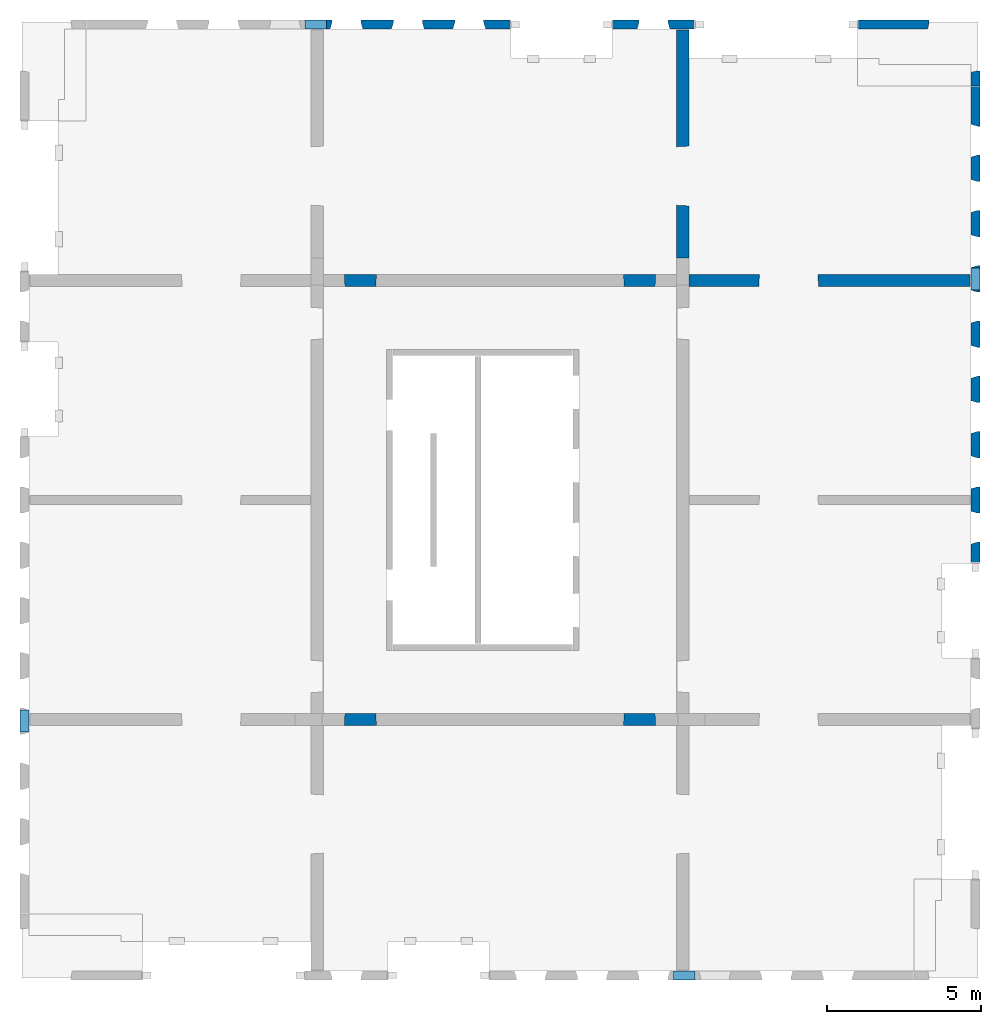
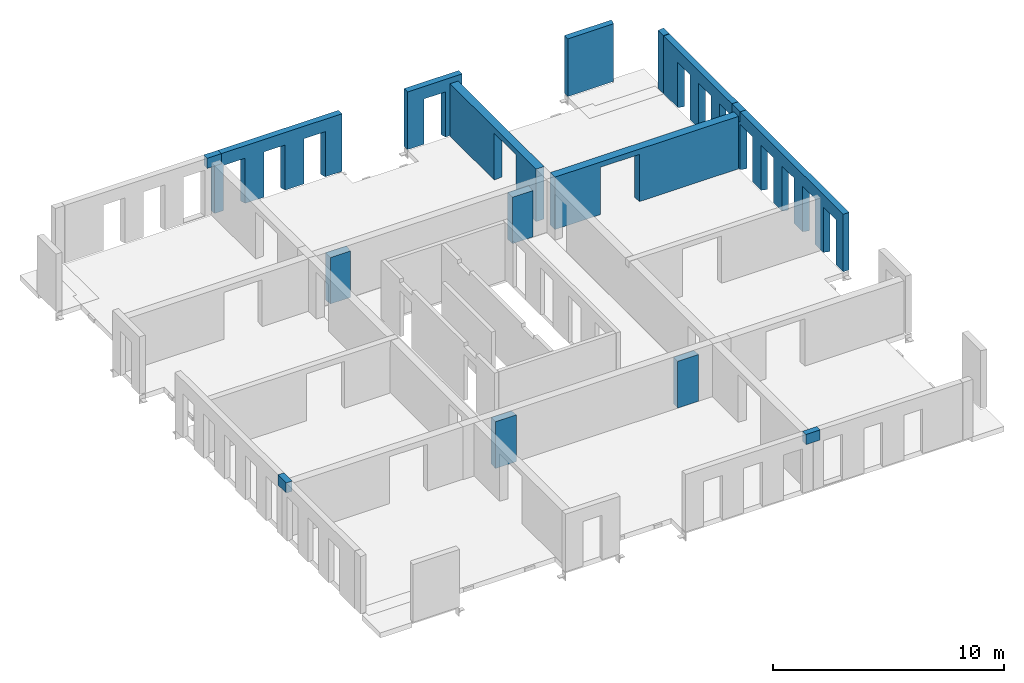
# One storey, part 4 of 4: 16 walls, 19 openings.
"""IFC2X3 building model written with IfcOpenShell, lengths in millimetres."""

from ifc_helpers import new_model, entity, si_unit, converted_unit, derived_unit, direction, frame, frame_2d, origin, place, context, subcontext, project, spatial, rectangle, extrude, faceted_brep, material, layer, layer_set, layer_usage, type_object, element, save


model = new_model("IFC2X3")

# Units and contexts
model_context = context("Model", 3, precision=0.01, world=origin(), true_north=direction((6.12303176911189e-17, 1.0)))
body_context = subcontext(model_context, "Body", "Model", "MODEL_VIEW")
ifc_project = project(units=[si_unit("LENGTHUNIT", "METRE", prefix="MILLI"), si_unit("AREAUNIT", "SQUARE_METRE"), si_unit("VOLUMEUNIT", "CUBIC_METRE"), converted_unit("PLANEANGLEUNIT", "DEGREE", entity("IfcRatioMeasure", 0.0174532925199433), si_unit("PLANEANGLEUNIT", "RADIAN"), dimensions=[0, 0, 0, 0, 0, 0, 0]), si_unit("MASSUNIT", "GRAM", prefix="KILO"), derived_unit("MASSDENSITYUNIT", [(si_unit("MASSUNIT", "GRAM", prefix="KILO"), 1), (si_unit("LENGTHUNIT", "METRE"), -3)]), si_unit("TIMEUNIT", "SECOND"), si_unit("FREQUENCYUNIT", "HERTZ"), si_unit("THERMODYNAMICTEMPERATUREUNIT", "DEGREE_CELSIUS"), derived_unit("THERMALTRANSMITTANCEUNIT", [(si_unit("MASSUNIT", "GRAM", prefix="KILO"), 1), (si_unit("THERMODYNAMICTEMPERATUREUNIT", "KELVIN"), -1), (si_unit("TIMEUNIT", "SECOND"), -3)]), derived_unit("VOLUMETRICFLOWRATEUNIT", [(si_unit("LENGTHUNIT", "METRE"), 3), (si_unit("TIMEUNIT", "SECOND"), -1)]), si_unit("ELECTRICCURRENTUNIT", "AMPERE"), si_unit("ELECTRICVOLTAGEUNIT", "VOLT"), si_unit("POWERUNIT", "WATT"), si_unit("FORCEUNIT", "NEWTON", prefix="KILO"), si_unit("ILLUMINANCEUNIT", "LUX"), si_unit("LUMINOUSFLUXUNIT", "LUMEN"), si_unit("LUMINOUSINTENSITYUNIT", "CANDELA"), derived_unit("USERDEFINED", [(si_unit("MASSUNIT", "GRAM", prefix="KILO"), -1), (si_unit("LENGTHUNIT", "METRE"), -2), (si_unit("TIMEUNIT", "SECOND"), 3), (si_unit("LUMINOUSFLUXUNIT", "LUMEN"), 1)]), derived_unit("LINEARVELOCITYUNIT", [(si_unit("LENGTHUNIT", "METRE"), 1), (si_unit("TIMEUNIT", "SECOND"), -1)]), si_unit("PRESSUREUNIT", "PASCAL"), derived_unit("USERDEFINED", [(si_unit("LENGTHUNIT", "METRE"), -2), (si_unit("MASSUNIT", "GRAM", prefix="KILO"), 1), (si_unit("TIMEUNIT", "SECOND"), -2)])], contexts=[model_context])

# Site, building, storey
site_placement = place(None, origin())
site = spatial("IfcSite", under=ifc_project, at=site_placement, Name="Default", CompositionType="ELEMENT")
building_placement = place(site_placement, origin())
building = spatial("IfcBuilding", under=site, at=building_placement, Name="niet gebruiken", CompositionType="ELEMENT")
storey_placement = place(building_placement, frame((0.0, 0.0, 94500.0)))
storey = spatial("IfcBuildingStorey", under=building, at=storey_placement, Name="30 dertigste verdieping", CompositionType="ELEMENT", Elevation=94500.0000000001)

# Walls
ifc_material_1 = material(Name="NLRS_f2_beton ihwg")
ifc_layer_1 = layer(ifc_material_1, 300.0)
ifc_layer_set_1 = layer_set([ifc_layer_1], Name="Basic Wall:NLRS_21.21_WA_beton ihwg d=300_gen")
ifc_layer_usage_1 = layer_usage(ifc_layer_set_1, "AXIS2", "NEGATIVE", 150.0)
wall_type_1 = type_object("IfcWallType", Name="Basic Wall:NLRS_21.21_WA_beton ihwg d=300_gen", PredefinedType="STANDARD", material=ifc_layer_set_1)
wall_1_placement = place(storey_placement, frame((148105.0, 2020.0, 2455.0), z_axis=(0.0, 0.0, 1.0), x_axis=(-1.0, 0.0, 0.0)))
element("IfcWallStandardCase", 1, at=wall_1_placement, inside=storey, type_object=wall_type_1, material=ifc_layer_usage_1, Name="Basic Wall:NLRS_21.21_WA_beton ihwg d=300_gen", ObjectType="Basic Wall:NLRS_21.21_WA_beton ihwg d=300_gen", context=body_context, shape_type="SweptSolid", body=[
    extrude(rectangle(XDim=710.000000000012, YDim=300.0, at=frame_2d((355.000000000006, -1.4210854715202e-14), x_axis=(-1.0, 0.0))), origin(), (0.0, 0.0, 1.0), 535.0),
])
ifc_layer_usage_2 = layer_usage(ifc_layer_set_1, "AXIS2", "NEGATIVE", 150.0)
wall_2_placement = place(storey_placement, frame((135395.0, 32980.0, 2455.0)))
element("IfcWallStandardCase", 2, at=wall_2_placement, inside=storey, type_object=wall_type_1, material=ifc_layer_usage_2, Name="Basic Wall:NLRS_21.21_WA_beton ihwg d=300_gen", ObjectType="Basic Wall:NLRS_21.21_WA_beton ihwg d=300_gen", context=body_context, shape_type="SweptSolid", body=[
    extrude(rectangle(XDim=710.000000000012, YDim=300.000000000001, at=frame_2d((355.000000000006, 0.0), x_axis=(-1.0, 0.0))), origin(), (0.0, 0.0, 1.0), 535.0),
])
ifc_layer_usage_3 = layer_usage(ifc_layer_set_1, "AXIS2", "NEGATIVE", 150.0)
wall_3_placement = place(storey_placement, frame((157230.0, 25055.0, 2455.0), z_axis=(0.0, 0.0, 1.0), x_axis=(0.0, -1.0, 0.0)))
element("IfcWallStandardCase", 3, at=wall_3_placement, inside=storey, type_object=wall_type_1, material=ifc_layer_usage_3, Name="Basic Wall:NLRS_21.21_WA_beton ihwg d=300_gen", ObjectType="Basic Wall:NLRS_21.21_WA_beton ihwg d=300_gen", context=body_context, shape_type="SweptSolid", body=[
    extrude(rectangle(XDim=710.000000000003, YDim=300.000000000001, at=frame_2d((355.000000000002, 9.9475983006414e-13), x_axis=(-1.0, 0.0))), origin(), (0.0, 0.0, 1.0), 535.0),
])
ifc_layer_usage_4 = layer_usage(ifc_layer_set_1, "AXIS2", "NEGATIVE", 150.0)
wall_4_placement = place(storey_placement, frame((126270.0, 9945.0, 2455.0), z_axis=(0.0, 0.0, 1.0), x_axis=(0.0, 1.0, 0.0)))
element("IfcWallStandardCase", 4, at=wall_4_placement, inside=storey, type_object=wall_type_1, material=ifc_layer_usage_4, Name="Basic Wall:NLRS_21.21_WA_beton ihwg d=300_gen", ObjectType="Basic Wall:NLRS_21.21_WA_beton ihwg d=300_gen", context=body_context, shape_type="SweptSolid", body=[
    extrude(rectangle(XDim=710.000000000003, YDim=300.000000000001, at=frame_2d((355.000000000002, 0.0), x_axis=(-1.0, 0.0))), origin(), (0.0, 0.0, 1.0), 535.0),
])

# Wall, opening
ifc_material_2 = material(Name="NLRS_f2_beton prefab")
ifc_layer_2 = layer(ifc_material_2, 400.0)
ifc_layer_set_2 = layer_set([ifc_layer_2], Name="Basic Wall:NLRS_22.21_WA_beton prefab d=400_gen")
ifc_layer_usage_5 = layer_usage(ifc_layer_set_2, "AXIS2", "NEGATIVE", 200.0)
wall_type_2 = type_object("IfcWallType", Name="Basic Wall:NLRS_22.21_WA_beton prefab d=400_gen", PredefinedType="STANDARD", material=ifc_layer_set_2)
wall_5_placement = place(storey_placement, frame((157060.0, 24650.0, -70.0), z_axis=(0.0, 0.0, 1.0), x_axis=(-1.0, 0.0, 0.0)))
wall_5 = element("IfcWallStandardCase", 5, at=wall_5_placement, inside=storey, type_object=wall_type_2, material=ifc_layer_usage_5, Name="Basic Wall:NLRS_22.21_WA_beton prefab d=400_gen", ObjectType="Basic Wall:NLRS_22.21_WA_beton prefab d=400_gen", context=body_context, shape_type="SweptSolid", body=[
    extrude(rectangle(XDim=9160.00000000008, YDim=399.999999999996, at=frame_2d((4580.00000000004, -9.2370555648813e-13), x_axis=(-1.0, 0.0))), origin(), (0.0, 0.0, 1.0), 2770.00000000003),
])
opening_1_placement = place(wall_5_placement, frame((6884.0, 200.0, 0.0)))
element("IfcOpeningElement", 6, at=opening_1_placement, cuts=wall_5, Name="Basic Wall:NLRS_22.21_WA_beton prefab d=400_gen", ObjectType="Opening", context=body_context, shape_type="Brep", body=[
    faceted_brep([(-24.0, -400.0, 2470.0), (-1924.0, -400.0, 2470.0), (-1924.0, -400.0, 0.0), (-24.0, -400.0, 0.0), (0.0, 0.0, 2494.0), (0.0, 0.0, 0.0), (-1948.0, 0.0, 0.0), (-1948.0, 0.0, 2494.0)], [[[0, 1, 2, 3]], [[4, 5, 6, 7]], [[4, 7, 1, 0]], [[7, 6, 2, 1]], [[6, 5, 3, 2]], [[5, 4, 0, 3]]]),
])

ifc_layer_usage_6 = layer_usage(ifc_layer_set_2, "AXIS2", "NEGATIVE", 200.0)
wall_6_placement = place(storey_placement, frame((147700.0, 25380.0, -70.0), z_axis=(0.0, 0.0, 1.0), x_axis=(0.0, 1.0, 0.0)))
wall_6 = element("IfcWallStandardCase", 7, at=wall_6_placement, inside=storey, type_object=wall_type_2, material=ifc_layer_usage_6, Name="Basic Wall:NLRS_22.21_WA_beton prefab d=400_gen", ObjectType="Basic Wall:NLRS_22.21_WA_beton prefab d=400_gen", context=body_context, shape_type="SweptSolid", body=[
    extrude(rectangle(XDim=7429.99999999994, YDim=400.000000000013, at=frame_2d((3714.99999999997, 7.14805992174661e-12), x_axis=(-1.0, 0.0))), origin(), (0.0, 0.0, 1.0), 2770.00000000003),
])
opening_2_placement = place(wall_6_placement, frame((1696.0, 200.0, 0.0)))
element("IfcOpeningElement", 8, at=opening_2_placement, cuts=wall_6, Name="Basic Wall:NLRS_22.21_WA_beton prefab d=400_gen", ObjectType="Opening", context=body_context, shape_type="Brep", body=[
    faceted_brep([(1924.0, 0.0, 2470.0), (1924.0, 0.0, 0.0), (24.0, 0.0, 0.0), (24.0, 0.0, 2470.0), (1948.0, -400.0, 2494.0), (0.0, -400.0, 2494.0), (0.0, -400.0, 0.0), (1948.0, -400.0, 0.0)], [[[0, 1, 2, 3]], [[4, 5, 6, 7]], [[4, 0, 3, 5]], [[5, 3, 2, 6]], [[6, 2, 1, 7]], [[7, 1, 0, 4]]]),
])

ifc_layer_3 = layer(ifc_material_2, 300.0)
ifc_layer_set_3 = layer_set([ifc_layer_3], Name="Basic Wall:NLRS_21.21_WA_beton prefab d=300/320_gen")
ifc_layer_usage_7 = layer_usage(ifc_layer_set_3, "AXIS2", "NEGATIVE", 150.0)
wall_type_3 = type_object("IfcWallType", Name="Basic Wall:NLRS_21.21_WA_beton prefab d=300/320_gen", PredefinedType="STANDARD", material=ifc_layer_set_3)
wall_7_placement = place(storey_placement, frame((145390.0, 32980.0, -50.0)))
wall_7 = element("IfcWallStandardCase", 9, at=wall_7_placement, inside=storey, type_object=wall_type_3, material=ifc_layer_usage_7, Name="Basic Wall:NLRS_21.21_WA_beton prefab d=300/320_gen", ObjectType="Basic Wall:NLRS_21.21_WA_beton prefab d=300/320_gen", context=body_context, shape_type="SweptSolid", body=[
    extrude(rectangle(XDim=2720.00000000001, YDim=300.000000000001, at=frame_2d((1360.0, -4.54747350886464e-13), x_axis=(-1.0, 0.0))), origin(), (0.0, 0.0, 1.0), 3040.0),
])
opening_3_placement = place(wall_7_placement, frame((825.0, -150.0, -20.0)))
element("IfcOpeningElement", 10, at=opening_3_placement, cuts=wall_7, Name="Basic Wall:NLRS_21.21_WA_beton prefab d=300/320_gen", ObjectType="Opening", context=body_context, shape_type="Brep", body=[
    faceted_brep([(0.0, 0.0, 2405.0), (0.0, 0.0, 0.0), (1070.0, 0.0, 0.0), (1070.0, 0.0, 2405.0), (1005.0, 219.0, 2370.0), (65.0, 219.0, 2370.0), (1005.0, 219.0, 0.0), (65.0, 219.0, 0.0), (65.0, 300.0, 0.0), (1005.0, 300.0, 0.0), (65.0, 300.0, 2370.0), (1005.0, 300.0, 2370.0)], [[[0, 1, 2, 3]], [[3, 4, 5, 0]], [[2, 6, 4, 3]], [[1, 7, 8, 9, 6, 2]], [[0, 5, 7, 1]], [[10, 11, 9, 8]], [[10, 5, 4, 11]], [[11, 4, 6, 9]], [[8, 7, 5, 10]]]),
])

# Wall, openings
ifc_layer_usage_8 = layer_usage(ifc_layer_set_3, "AXIS2", "NEGATIVE", 150.0)
wall_8_placement = place(storey_placement, frame((157230.0, 30960.0, -50.0), z_axis=(0.0, 0.0, 1.0), x_axis=(0.0, -1.0, 0.0)))
wall_8 = element("IfcWallStandardCase", 11, at=wall_8_placement, inside=storey, type_object=wall_type_3, material=ifc_layer_usage_8, Name="Basic Wall:NLRS_21.21_WA_beton prefab d=300/320_gen", ObjectType="Basic Wall:NLRS_21.21_WA_beton prefab d=300/320_gen", context=body_context, shape_type="SweptSolid", body=[
    extrude(rectangle(XDim=6249.99999999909, YDim=300.000000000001, at=frame_2d((3124.99999999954, -8.61177795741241e-12), x_axis=(-1.0, 0.0))), origin(), (0.0, 0.0, 1.0), 3039.99999999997),
])
opening_4_placement = place(wall_8_placement, frame((2295.0, -150.0, -20.0)))
element("IfcOpeningElement", 12, at=opening_4_placement, cuts=wall_8, Name="Basic Wall:NLRS_21.21_WA_beton prefab d=300/320_gen", ObjectType="Opening", context=body_context, shape_type="Brep", body=[
    faceted_brep([(-1070.0, 0.0, 2405.0), (-1070.0, 0.0, 0.0), (0.0, 0.0, 0.0), (0.0, 0.0, 2405.0), (-65.0, 219.0, 2370.0), (-1005.0, 219.0, 2370.0), (-65.0, 219.0, 0.0), (-1005.0, 219.0, 0.0), (-1005.0, 300.0, 0.0), (-65.0, 300.0, 0.0), (-1005.0, 300.0, 2370.0), (-65.0, 300.0, 2370.0)], [[[0, 1, 2, 3]], [[3, 4, 5, 0]], [[2, 6, 4, 3]], [[1, 7, 8, 9, 6, 2]], [[0, 5, 7, 1]], [[10, 11, 9, 8]], [[10, 5, 4, 11]], [[11, 4, 6, 9]], [[8, 7, 5, 10]]]),
])
opening_5_placement = place(wall_8_placement, frame((4095.0, -150.0, -20.0)))
element("IfcOpeningElement", 13, at=opening_5_placement, cuts=wall_8, Name="Basic Wall:NLRS_21.21_WA_beton prefab d=300/320_gen", ObjectType="Opening", context=body_context, shape_type="Brep", body=[
    faceted_brep([(-1070.0, 0.0, 2405.0), (-1070.0, 0.0, 0.0), (0.0, 0.0, 0.0), (0.0, 0.0, 2405.0), (-65.0, 219.0, 2370.0), (-1005.0, 219.0, 2370.0), (-65.0, 219.0, 0.0), (-1005.0, 219.0, 0.0), (-1005.0, 300.0, 0.0), (-65.0, 300.0, 0.0), (-1005.0, 300.0, 2370.0), (-65.0, 300.0, 2370.0)], [[[0, 1, 2, 3]], [[3, 4, 5, 0]], [[2, 6, 4, 3]], [[1, 7, 8, 9, 6, 2]], [[0, 5, 7, 1]], [[10, 11, 9, 8]], [[10, 5, 4, 11]], [[11, 4, 6, 9]], [[8, 7, 5, 10]]]),
])
opening_6_placement = place(wall_8_placement, frame((5895.0, -150.0, -20.0)))
element("IfcOpeningElement", 14, at=opening_6_placement, cuts=wall_8, Name="Basic Wall:NLRS_21.21_WA_beton prefab d=300/320_gen", ObjectType="Opening", context=body_context, shape_type="Brep", body=[
    faceted_brep([(-1070.0, 0.0, 2405.0), (-1070.0, 0.0, 0.0), (0.0, 0.0, 0.0), (0.0, 0.0, 2405.0), (-65.0, 219.0, 2370.0), (-1005.0, 219.0, 2370.0), (-65.0, 219.0, 0.0), (-1005.0, 219.0, 0.0), (-1005.0, 300.0, 0.0), (-65.0, 300.0, 0.0), (-1005.0, 300.0, 2370.0), (-65.0, 300.0, 2370.0)], [[[0, 1, 2, 3]], [[3, 4, 5, 0]], [[2, 6, 4, 3]], [[1, 7, 8, 9, 6, 2]], [[0, 5, 7, 1]], [[10, 11, 9, 8]], [[10, 5, 4, 11]], [[11, 4, 6, 9]], [[8, 7, 5, 10]]]),
])
opening_7_placement = place(wall_8_placement, origin())
element("IfcOpeningElement", 15, at=opening_7_placement, cuts=wall_8, Name="Basic Wall:NLRS_21.21_WA_beton prefab d=300/320_gen", ObjectType="Opening", context=body_context, shape_type="SweptSolid", body=[
    extrude(rectangle(XDim=534.99999999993, YDim=344.999999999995, at=frame_2d((0.0, -2.17426077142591e-12), x_axis=(1.0, 0.0))), frame((6077.49999999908, 150.0, 2772.5), z_axis=(0.0, -1.0, 0.0), x_axis=(0.0, 0.0, 1.0)), (0.0, 0.0, 1.0), 300.0),
])

# Wall, opening
ifc_layer_usage_9 = layer_usage(ifc_layer_set_3, "AXIS2", "NEGATIVE", 150.0)
wall_9_placement = place(storey_placement, frame((153390.0, 32980.0, -50.0)))
wall_9 = element("IfcWallStandardCase", 16, at=wall_9_placement, inside=storey, type_object=wall_type_3, material=ifc_layer_usage_9, Name="Basic Wall:NLRS_21.21_WA_beton prefab d=300/320_gen", ObjectType="Basic Wall:NLRS_21.21_WA_beton prefab d=300/320_gen", context=body_context, shape_type="SweptSolid", body=[
    extrude(rectangle(XDim=2330.00000000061, YDim=300.000000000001, at=frame_2d((1165.00000000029, -1.29318777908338e-12), x_axis=(-1.0, 0.0))), origin(), (0.0, 0.0, 1.0), 3040.0),
])
opening_8_placement = place(wall_9_placement, frame((2265.0, -250.0, 0.0)))
element("IfcOpeningElement", 17, at=opening_8_placement, cuts=wall_9, Name="Basic Wall:NLRS_21.21_WA_beton prefab d=300/320_gen", ObjectType="Opening", context=body_context, shape_type="Brep", body=[
    faceted_brep([(65.0, 0.0, 3040.0), (65.0, 319.0, 3040.0), (0.0, 0.0, 3040.0), (65.0, 0.0, 0.0), (0.0, 0.0, 0.0), (65.0, 319.0, 0.0)], [[[0, 1, 2]], [[3, 4, 5]], [[2, 4, 3, 0]], [[0, 3, 5, 1]], [[1, 5, 4, 2]]]),
])

ifc_layer_usage_10 = layer_usage(ifc_layer_set_3, "AXIS2", "NEGATIVE", 150.0)
wall_10_placement = place(storey_placement, frame((157230.0, 31470.0, -50.0), z_axis=(0.0, 0.0, 1.0), x_axis=(0.0, -1.0, 0.0)))
wall_10 = element("IfcWallStandardCase", 18, at=wall_10_placement, inside=storey, type_object=wall_type_3, material=ifc_layer_usage_10, Name="Basic Wall:NLRS_21.21_WA_beton prefab d=300/320_gen", ObjectType="Basic Wall:NLRS_21.21_WA_beton prefab d=300/320_gen", context=body_context, shape_type="SweptSolid", body=[
    extrude(rectangle(XDim=489.999999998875, YDim=300.000000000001, at=frame_2d((244.999999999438, -7.8159700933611e-13), x_axis=(-1.0, 0.0))), origin(), (0.0, 0.0, 1.0), 3040.0),
])
opening_9_placement = place(wall_10_placement, frame((65.0, -250.0, 0.0)))
element("IfcOpeningElement", 19, at=opening_9_placement, cuts=wall_10, Name="Basic Wall:NLRS_21.21_WA_beton prefab d=300/320_gen", ObjectType="Opening", context=body_context, shape_type="Brep", body=[
    faceted_brep([(-65.0, 0.0, 3040.0), (0.0, 0.0, 3040.0), (-65.0, 319.0, 3040.0), (-65.0, 0.0, 0.0), (-65.0, 319.0, 0.0), (0.0, 0.0, 0.0)], [[[0, 1, 2]], [[3, 4, 5]], [[1, 0, 3, 5]], [[0, 2, 4, 3]], [[2, 1, 5, 4]]]),
])

# Wall, openings
ifc_layer_usage_11 = layer_usage(ifc_layer_set_3, "AXIS2", "NEGATIVE", 150.0)
wall_11_placement = place(storey_placement, frame((157230.0, 24690.0, -50.0), z_axis=(0.0, 0.0, 1.0), x_axis=(0.0, -1.0, 0.0)))
wall_11 = element("IfcWallStandardCase", 20, at=wall_11_placement, inside=storey, type_object=wall_type_3, material=ifc_layer_usage_11, Name="Basic Wall:NLRS_21.21_WA_beton prefab d=300/320_gen", ObjectType="Basic Wall:NLRS_21.21_WA_beton prefab d=300/320_gen", context=body_context, shape_type="SweptSolid", body=[
    extrude(rectangle(XDim=9250.00000000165, YDim=300.000000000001, at=frame_2d((4625.00000000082, -4.43378667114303e-12), x_axis=(-1.0, 0.0))), origin(), (0.0, 0.0, 1.0), 3040.0),
])
opening_10_placement = place(wall_11_placement, frame((8625.0, -150.0, -20.0)))
element("IfcOpeningElement", 21, at=opening_10_placement, cuts=wall_11, Name="Basic Wall:NLRS_21.21_WA_beton prefab d=300/320_gen", ObjectType="Opening", context=body_context, shape_type="Brep", body=[
    faceted_brep([(-1070.0, 0.0, 2405.0), (-1070.0, 0.0, 0.0), (0.0, 0.0, 0.0), (0.0, 0.0, 2405.0), (-65.0, 219.0, 2370.0), (-1005.0, 219.0, 2370.0), (-65.0, 219.0, 0.0), (-1005.0, 219.0, 0.0), (-1005.0, 300.0, 0.0), (-65.0, 300.0, 0.0), (-1005.0, 300.0, 2370.0), (-65.0, 300.0, 2370.0)], [[[0, 1, 2, 3]], [[3, 4, 5, 0]], [[2, 6, 4, 3]], [[1, 7, 8, 9, 6, 2]], [[0, 5, 7, 1]], [[10, 11, 9, 8]], [[10, 5, 4, 11]], [[11, 4, 6, 9]], [[8, 7, 5, 10]]]),
])
opening_11_placement = place(wall_11_placement, frame((5025.0, -150.0, -20.0)))
element("IfcOpeningElement", 22, at=opening_11_placement, cuts=wall_11, Name="Basic Wall:NLRS_21.21_WA_beton prefab d=300/320_gen", ObjectType="Opening", context=body_context, shape_type="Brep", body=[
    faceted_brep([(-1070.0, 0.0, 2405.0), (-1070.0, 0.0, 0.0), (0.0, 0.0, 0.0), (0.0, 0.0, 2405.0), (-65.0, 219.0, 2370.0), (-1005.0, 219.0, 2370.0), (-65.0, 219.0, 0.0), (-1005.0, 219.0, 0.0), (-1005.0, 300.0, 0.0), (-65.0, 300.0, 0.0), (-1005.0, 300.0, 2370.0), (-65.0, 300.0, 2370.0)], [[[0, 1, 2, 3]], [[3, 4, 5, 0]], [[2, 6, 4, 3]], [[1, 7, 8, 9, 6, 2]], [[0, 5, 7, 1]], [[10, 11, 9, 8]], [[10, 5, 4, 11]], [[11, 4, 6, 9]], [[8, 7, 5, 10]]]),
])
opening_12_placement = place(wall_11_placement, frame((3225.0, -150.0, -20.0)))
element("IfcOpeningElement", 23, at=opening_12_placement, cuts=wall_11, Name="Basic Wall:NLRS_21.21_WA_beton prefab d=300/320_gen", ObjectType="Opening", context=body_context, shape_type="Brep", body=[
    faceted_brep([(-1070.0, 0.0, 2405.0), (-1070.0, 0.0, 0.0), (0.0, 0.0, 0.0), (0.0, 0.0, 2405.0), (-65.0, 219.0, 2370.0), (-1005.0, 219.0, 2370.0), (-65.0, 219.0, 0.0), (-1005.0, 219.0, 0.0), (-1005.0, 300.0, 0.0), (-65.0, 300.0, 0.0), (-1005.0, 300.0, 2370.0), (-65.0, 300.0, 2370.0)], [[[0, 1, 2, 3]], [[3, 4, 5, 0]], [[2, 6, 4, 3]], [[1, 7, 8, 9, 6, 2]], [[0, 5, 7, 1]], [[10, 11, 9, 8]], [[10, 5, 4, 11]], [[11, 4, 6, 9]], [[8, 7, 5, 10]]]),
])
opening_13_placement = place(wall_11_placement, frame((6825.0, -150.0, -20.0)))
element("IfcOpeningElement", 24, at=opening_13_placement, cuts=wall_11, Name="Basic Wall:NLRS_21.21_WA_beton prefab d=300/320_gen", ObjectType="Opening", context=body_context, shape_type="Brep", body=[
    faceted_brep([(-1070.0, 0.0, 2405.0), (-1070.0, 0.0, 0.0), (0.0, 0.0, 0.0), (0.0, 0.0, 2405.0), (-65.0, 219.0, 2370.0), (-1005.0, 219.0, 2370.0), (-65.0, 219.0, 0.0), (-1005.0, 219.0, 0.0), (-1005.0, 300.0, 0.0), (-65.0, 300.0, 0.0), (-1005.0, 300.0, 2370.0), (-65.0, 300.0, 2370.0)], [[[0, 1, 2, 3]], [[3, 4, 5, 0]], [[2, 6, 4, 3]], [[1, 7, 8, 9, 6, 2]], [[0, 5, 7, 1]], [[10, 11, 9, 8]], [[10, 5, 4, 11]], [[11, 4, 6, 9]], [[8, 7, 5, 10]]]),
])
opening_14_placement = place(wall_11_placement, frame((1425.0, -150.0, -20.0)))
element("IfcOpeningElement", 25, at=opening_14_placement, cuts=wall_11, Name="Basic Wall:NLRS_21.21_WA_beton prefab d=300/320_gen", ObjectType="Opening", context=body_context, shape_type="Brep", body=[
    faceted_brep([(0.0, 0.0, 2405.0), (-1070.0, 0.0, 2405.0), (-1070.0, 0.0, 0.0), (0.0, 0.0, 0.0), (-65.0, 219.0, 2370.0), (-1005.0, 219.0, 2370.0), (-1005.0, 219.0, 0.0), (-1005.0, 300.0, 0.0), (-65.0, 300.0, 0.0), (-65.0, 219.0, 0.0), (-65.0, 300.0, 2370.0), (-1005.0, 300.0, 2370.0)], [[[0, 1, 2, 3]], [[1, 0, 4, 5]], [[2, 1, 5, 6]], [[3, 2, 6, 7, 8, 9]], [[0, 3, 9, 4]], [[10, 8, 7, 11]], [[10, 11, 5, 4]], [[11, 7, 6, 5]], [[8, 10, 4, 9]]]),
])
opening_15_placement = place(wall_11_placement, origin())
element("IfcOpeningElement", 26, at=opening_15_placement, cuts=wall_11, Name="Basic Wall:NLRS_21.21_WA_beton prefab d=300/320_gen", ObjectType="Opening", context=body_context, shape_type="SweptSolid", body=[
    extrude(rectangle(XDim=534.999999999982, YDim=345.000000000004, at=frame_2d((-2.1600499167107e-12, 8.66862137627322e-12), x_axis=(0.0, 1.0))), frame((172.5, 150.0, 2772.5), z_axis=(0.0, -1.0, 0.0), x_axis=(-1.0, 0.0, 0.0)), (0.0, 0.0, 1.0), 300.0),
])

ifc_layer_usage_12 = layer_usage(ifc_layer_set_3, "AXIS2", "NEGATIVE", 150.0)
wall_12_placement = place(storey_placement, frame((135760.0, 32980.0, -50.0)))
wall_12 = element("IfcWallStandardCase", 27, at=wall_12_placement, inside=storey, type_object=wall_type_3, material=ifc_layer_usage_12, Name="Basic Wall:NLRS_21.21_WA_beton prefab d=300/320_gen", ObjectType="Basic Wall:NLRS_21.21_WA_beton prefab d=300/320_gen", context=body_context, shape_type="SweptSolid", body=[
    extrude(rectangle(XDim=6350.00000000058, YDim=300.000000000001, at=frame_2d((3175.00000000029, 0.0), x_axis=(-1.0, 0.0))), origin(), (0.0, 0.0, 1.0), 3040.0),
])
opening_16_placement = place(wall_12_placement, frame((455.0, -150.0, -20.0)))
element("IfcOpeningElement", 28, at=opening_16_placement, cuts=wall_12, Name="Basic Wall:NLRS_21.21_WA_beton prefab d=300/320_gen", ObjectType="Opening", context=body_context, shape_type="Brep", body=[
    faceted_brep([(1070.0, 0.0, 2405.0), (0.0, 0.0, 2405.0), (0.0, 0.0, 0.0), (1070.0, 0.0, 0.0), (1005.0, 219.0, 2370.0), (65.0, 219.0, 2370.0), (65.0, 219.0, 0.0), (65.0, 300.0, 0.0), (1005.0, 300.0, 0.0), (1005.0, 219.0, 0.0), (1005.0, 300.0, 2370.0), (65.0, 300.0, 2370.0)], [[[0, 1, 2, 3]], [[1, 0, 4, 5]], [[2, 1, 5, 6]], [[3, 2, 6, 7, 8, 9]], [[0, 3, 9, 4]], [[10, 8, 7, 11]], [[10, 11, 5, 4]], [[11, 7, 6, 5]], [[8, 10, 4, 9]]]),
])
opening_17_placement = place(wall_12_placement, frame((2455.0, -150.0, -20.0)))
element("IfcOpeningElement", 29, at=opening_17_placement, cuts=wall_12, Name="Basic Wall:NLRS_21.21_WA_beton prefab d=300/320_gen", ObjectType="Opening", context=body_context, shape_type="Brep", body=[
    faceted_brep([(1070.0, 0.0, 2405.0), (0.0, 0.0, 2405.0), (0.0, 0.0, 0.0), (1070.0, 0.0, 0.0), (1005.0, 219.0, 2370.0), (65.0, 219.0, 2370.0), (65.0, 219.0, 0.0), (65.0, 300.0, 0.0), (1005.0, 300.0, 0.0), (1005.0, 219.0, 0.0), (1005.0, 300.0, 2370.0), (65.0, 300.0, 2370.0)], [[[0, 1, 2, 3]], [[1, 0, 4, 5]], [[2, 1, 5, 6]], [[3, 2, 6, 7, 8, 9]], [[0, 3, 9, 4]], [[10, 8, 7, 11]], [[10, 11, 5, 4]], [[11, 7, 6, 5]], [[8, 10, 4, 9]]]),
])
opening_18_placement = place(wall_12_placement, frame((4455.0, -150.0, -20.0)))
element("IfcOpeningElement", 30, at=opening_18_placement, cuts=wall_12, Name="Basic Wall:NLRS_21.21_WA_beton prefab d=300/320_gen", ObjectType="Opening", context=body_context, shape_type="Brep", body=[
    faceted_brep([(1070.0, 0.0, 2405.0), (0.0, 0.0, 2405.0), (0.0, 0.0, 0.0), (1070.0, 0.0, 0.0), (1005.0, 219.0, 2370.0), (65.0, 219.0, 2370.0), (65.0, 219.0, 0.0), (65.0, 300.0, 0.0), (1005.0, 300.0, 0.0), (1005.0, 219.0, 0.0), (1005.0, 300.0, 2370.0), (65.0, 300.0, 2370.0)], [[[0, 1, 2, 3]], [[1, 0, 4, 5]], [[2, 1, 5, 6]], [[3, 2, 6, 7, 8, 9]], [[0, 3, 9, 4]], [[10, 8, 7, 11]], [[10, 11, 5, 4]], [[11, 7, 6, 5]], [[8, 10, 4, 9]]]),
])
opening_19_placement = place(wall_12_placement, origin())
element("IfcOpeningElement", 31, at=opening_19_placement, cuts=wall_12, Name="Basic Wall:NLRS_21.21_WA_beton prefab d=300/320_gen", ObjectType="Opening", context=body_context, shape_type="SweptSolid", body=[
    extrude(rectangle(XDim=534.999999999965, YDim=345.000000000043, at=frame_2d((0.0, 0.0), x_axis=(0.0, 1.0))), frame((172.500000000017, 150.0, 2772.5), z_axis=(0.0, -1.0, 0.0), x_axis=(-1.0, 0.0, 0.0)), (0.0, 0.0, 1.0), 300.0),
])

# Walls
ifc_material_3 = material(Name="NLRS_f2_beton prefab dichtstorten")
wall_type_4 = type_object("IfcWallType", Name="Parametric Wall:NLRS_22.21_WA_beton prefab d=500 1006x2448_gen", PredefinedType="NOTDEFINED", material=ifc_material_3)
for number, where in (
    (32, (136676.0, 10150.0, -70.0)),
    (33, (145770.0, 10150.0, -70.0)),
):
    element("IfcWall", number, at=place(storey_placement, frame(where)), inside=storey, type_object=wall_type_4, material=ifc_material_3, Name="Parametric Wall:NLRS_22.21_WA_beton prefab d=500 1006x2448_gen", ObjectType="Parametric Wall:NLRS_22.21_WA_beton prefab d=500 1006x2448_gen", context=body_context, shape_type="Brep", body=[
        faceted_brep([(0.0, 0.0, 2472.0), (0.0, 0.0, 0.0), (1054.0, 0.0, 0.0), (1054.0, 0.0, 2472.0), (24.0, 400.0, 2448.0), (1030.0, 400.0, 2448.0), (1030.0, 400.0, 0.0), (24.0, 400.0, 0.0)], [[[0, 1, 2, 3]], [[4, 5, 6, 7]], [[4, 7, 1, 0]], [[7, 6, 2, 1]], [[6, 5, 3, 2]], [[5, 4, 0, 3]]]),
    ])
for number, where in (
    (34, (145770.0, 24450.0, -70.0)),
    (35, (136676.0, 24450.0, -70.0)),
):
    element("IfcWall", number, at=place(storey_placement, frame(where)), inside=storey, type_object=wall_type_4, material=ifc_material_3, Name="Parametric Wall:NLRS_22.21_WA_beton prefab d=500 1006x2448_gen", ObjectType="Parametric Wall:NLRS_22.21_WA_beton prefab d=500 1006x2448_gen", context=body_context, shape_type="Brep", body=[
        faceted_brep([(1054.0, 400.0, 2472.0), (1054.0, 400.0, 0.0), (0.0, 400.0, 0.0), (0.0, 400.0, 2472.0), (1030.0, 0.0, 2448.0), (24.0, 0.0, 2448.0), (24.0, 0.0, 0.0), (1030.0, 0.0, 0.0)], [[[0, 1, 2, 3]], [[4, 5, 6, 7]], [[4, 7, 1, 0]], [[7, 6, 2, 1]], [[6, 5, 3, 2]], [[5, 4, 0, 3]]]),
    ])

save(model, "model.ifc")
